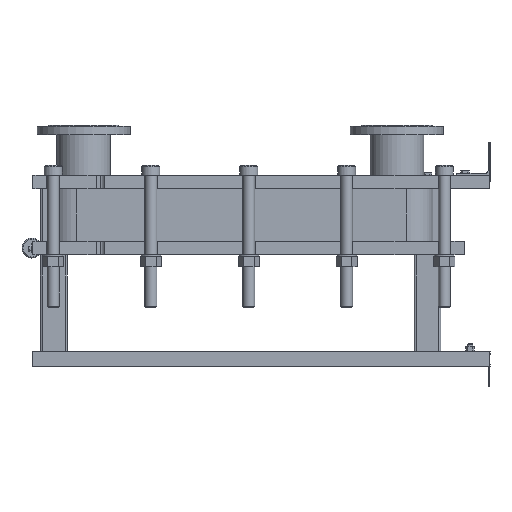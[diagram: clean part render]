
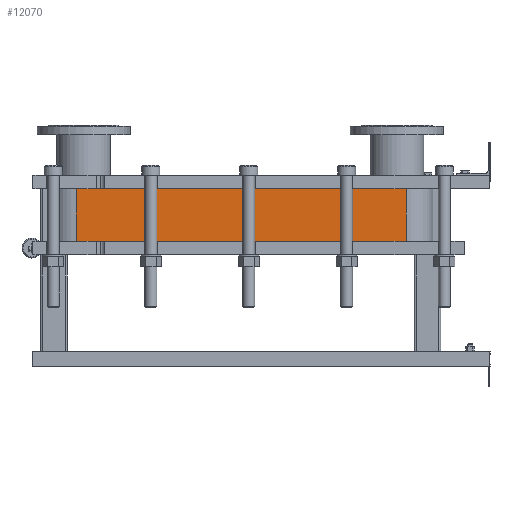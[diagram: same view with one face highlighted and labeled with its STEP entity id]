
A CAD part, left-side view. The second image highlights one B-rep face of the part: STEP entity #12070.
In plain terms, the highlighted planar face has unit normal (-1, 0, 0).
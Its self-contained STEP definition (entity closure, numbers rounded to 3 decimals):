
#1064=LINE('',#21140,#2164);
#1065=LINE('',#21144,#2165);
#1066=LINE('',#21146,#2166);
#1067=LINE('',#21147,#2167);
#2164=VECTOR('',#15790,10.);
#2165=VECTOR('',#15795,10.);
#2166=VECTOR('',#15796,10.);
#2167=VECTOR('',#15797,10.);
#3304=FACE_OUTER_BOUND('',#4091,.T.);
#4091=EDGE_LOOP('',(#9793,#9794,#9795,#9796));
#5677=VERTEX_POINT('',#21137);
#5678=VERTEX_POINT('',#21139);
#5679=VERTEX_POINT('',#21143);
#5680=VERTEX_POINT('',#21145);
#7118=EDGE_CURVE('',#5678,#5677,#1064,.T.);
#7120=EDGE_CURVE('',#5677,#5679,#1065,.T.);
#7121=EDGE_CURVE('',#5680,#5679,#1066,.T.);
#7122=EDGE_CURVE('',#5680,#5678,#1067,.T.);
#9793=ORIENTED_EDGE('',*,*,#7120,.T.);
#9794=ORIENTED_EDGE('',*,*,#7121,.F.);
#9795=ORIENTED_EDGE('',*,*,#7122,.T.);
#9796=ORIENTED_EDGE('',*,*,#7118,.T.);
#11441=PLANE('',#13191);
#12070=ADVANCED_FACE('',(#3304),#11441,.T.);
#13191=AXIS2_PLACEMENT_3D('',#21142,#15793,#15794);
#15790=DIRECTION('',(0.,0.,-1.));
#15793=DIRECTION('center_axis',(-1.,0.,0.));
#15794=DIRECTION('ref_axis',(0.,1.,0.));
#15795=DIRECTION('',(0.,-1.,0.));
#15796=DIRECTION('',(0.,0.,-1.));
#15797=DIRECTION('',(0.,1.,0.));
#21137=CARTESIAN_POINT('',(-248.152,1243.818,-158.7));
#21139=CARTESIAN_POINT('',(-248.152,1243.818,0.));
#21140=CARTESIAN_POINT('',(-248.152,1243.818,0.));
#21142=CARTESIAN_POINT('Origin',(-248.152,251.818,0.));
#21143=CARTESIAN_POINT('',(-248.152,251.818,-158.7));
#21144=CARTESIAN_POINT('',(-248.152,499.818,-158.7));
#21145=CARTESIAN_POINT('',(-248.152,251.818,0.));
#21146=CARTESIAN_POINT('',(-248.152,251.818,0.));
#21147=CARTESIAN_POINT('',(-248.152,251.818,0.));
